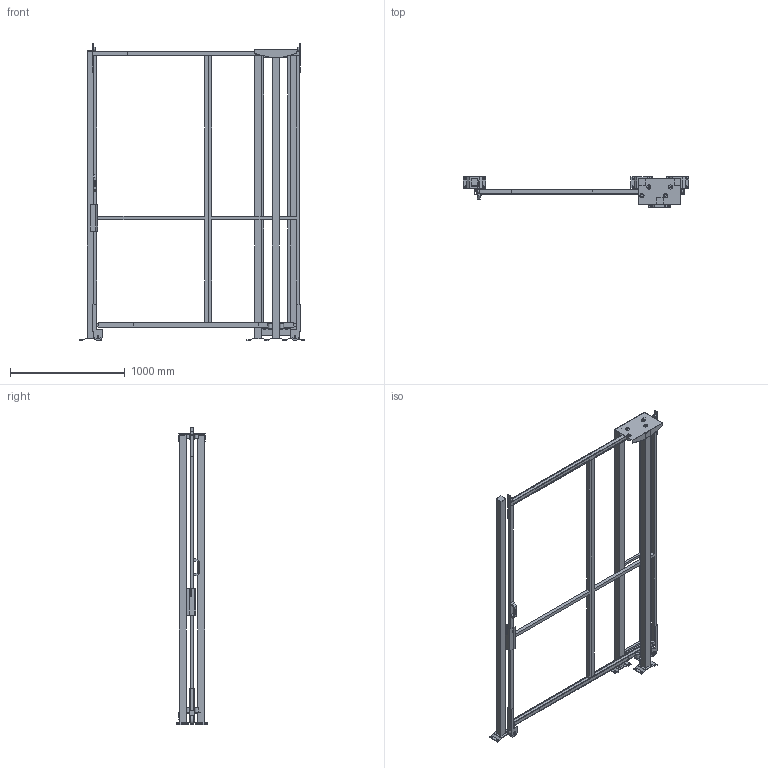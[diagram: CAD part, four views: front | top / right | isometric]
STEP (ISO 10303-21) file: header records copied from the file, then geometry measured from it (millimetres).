
FILE_DESCRIPTION(/* description */ (''),/* implementation_level */ '2;1');
FILE_NAME(/* name */ 'C:\SafeGuarding\ELABORATI\KLADKA_2025-03-20-10-10-37.stp',/* time_stamp */ '2025-03-20T10:10:42+01:00',/* author */ ('admin'),/* organization */ (''),/* preprocessor_version */ 'ST-DEVELOPER v18.1',/* originating_system */ 'AutoCAD Mechanical',/* authorisation */ '');
FILE_SCHEMA (('AUTOMOTIVE_DESIGN { 1 0 10303 214 3 1 1 }'));
Length unit declared in the file: millimetre
Products named in the file (5): Product; VFPA.REPE30.08002400; VFPA.REPE30.10002400; VFPA.REPE2002502400; P_VFMA.V360SDU.2520
Assembly tree (7 placements, depth 2):
  Product
    VFPA.REPE30.08002400
    VFPA.REPE30.10002400
    VFPA.REPE2002502400
    P_VFMA.V360SDU.2520  x4
Bounding box: 1961.97 x 264.14 x 2590.02 mm (x, y, z)
Volume: 54962054.2 mm3; surface area: 6973203.9 mm2
Topology: 48 solids, 59 shells, 501 faces, 1613 edges, 1561 vertices
Faces by surface type: plane 449, cylinder 50, sphere 2
Full cylindrical faces by diameter (mm): 9 x4, 11 x16, 13 x4, 30 x6, 36 x8, 80 x2
Entity records: 14721 total; most frequent: CARTESIAN_POINT 3137, DIRECTION 2229, ORIENTED_EDGE 2034, LINE 1095, VECTOR 1095, EDGE_CURVE 1066, VERTEX_POINT 750, AXIS2_PLACEMENT_3D 567
